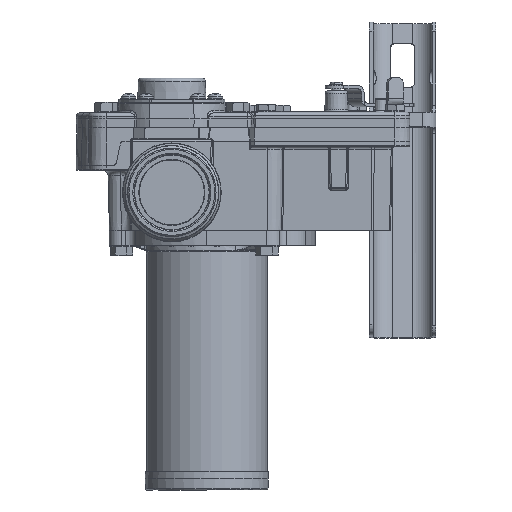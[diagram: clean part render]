
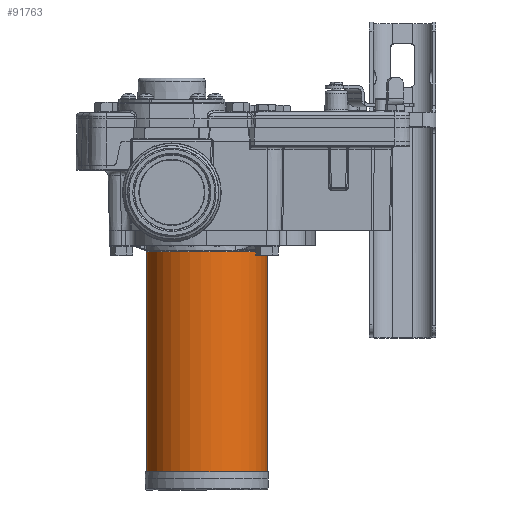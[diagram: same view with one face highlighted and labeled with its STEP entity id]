
A CAD part, front view. The second image highlights one B-rep face of the part: STEP entity #91763.
In plain terms, the highlighted cylindrical face has radius 38.976 mm (diameter 77.953 mm), a full revolution.
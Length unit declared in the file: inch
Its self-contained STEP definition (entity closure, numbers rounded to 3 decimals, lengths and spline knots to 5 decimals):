
#1421=ELLIPSE('',#97242,4.48658,1.5345);
#1422=ELLIPSE('',#97244,4.48658,1.5345);
#1597=FACE_BOUND('',#15083,.T.);
#4681=CYLINDRICAL_SURFACE('',#97246,1.5345);
#6016=CIRCLE('',#97205,1.5345);
#6029=CIRCLE('',#97235,1.5345);
#6030=CIRCLE('',#97238,1.5345);
#6031=CIRCLE('',#97240,1.5345);
#6032=CIRCLE('',#97247,1.5345);
#9829=FACE_OUTER_BOUND('',#15082,.T.);
#15082=EDGE_LOOP('',(#61775,#61776,#61777,#61778));
#15083=EDGE_LOOP('',(#61779,#61780,#61781,#61782,#61783,#61784,#61785));
#23035=LINE('',#139995,#30184);
#23041=LINE('',#140009,#30190);
#23051=LINE('',#140038,#30200);
#30184=VECTOR('',#106680,0.3937);
#30190=VECTOR('',#106692,0.3937);
#30200=VECTOR('',#106724,1.5345);
#37692=VERTEX_POINT('',#139931);
#37707=VERTEX_POINT('',#139993);
#37708=VERTEX_POINT('',#139994);
#37711=VERTEX_POINT('',#140002);
#37713=VERTEX_POINT('',#140008);
#37715=VERTEX_POINT('',#140014);
#37717=VERTEX_POINT('',#140020);
#37719=VERTEX_POINT('',#140026);
#37721=VERTEX_POINT('',#140036);
#46786=EDGE_CURVE('',#37692,#37692,#6016,.T.);
#46813=EDGE_CURVE('',#37707,#37708,#23035,.T.);
#46817=EDGE_CURVE('',#37708,#37711,#6029,.T.);
#46820=EDGE_CURVE('',#37711,#37713,#23041,.T.);
#46823=EDGE_CURVE('',#37713,#37715,#6030,.T.);
#46826=EDGE_CURVE('',#37717,#37707,#6031,.T.);
#46829=EDGE_CURVE('',#37719,#37717,#1421,.T.);
#46832=EDGE_CURVE('',#37715,#37719,#1422,.T.);
#46834=EDGE_CURVE('',#37721,#37721,#6032,.T.);
#46835=EDGE_CURVE('',#37721,#37692,#23051,.T.);
#61775=ORIENTED_EDGE('',*,*,#46834,.F.);
#61776=ORIENTED_EDGE('',*,*,#46835,.T.);
#61777=ORIENTED_EDGE('',*,*,#46786,.F.);
#61778=ORIENTED_EDGE('',*,*,#46835,.F.);
#61779=ORIENTED_EDGE('',*,*,#46823,.T.);
#61780=ORIENTED_EDGE('',*,*,#46832,.T.);
#61781=ORIENTED_EDGE('',*,*,#46829,.T.);
#61782=ORIENTED_EDGE('',*,*,#46826,.T.);
#61783=ORIENTED_EDGE('',*,*,#46813,.T.);
#61784=ORIENTED_EDGE('',*,*,#46817,.T.);
#61785=ORIENTED_EDGE('',*,*,#46820,.T.);
#91763=ADVANCED_FACE('',(#9829,#1597),#4681,.T.);
#97205=AXIS2_PLACEMENT_3D('',#139932,#106610,#106611);
#97235=AXIS2_PLACEMENT_3D('',#140003,#106686,#106687);
#97238=AXIS2_PLACEMENT_3D('',#140015,#106697,#106698);
#97240=AXIS2_PLACEMENT_3D('',#140021,#106703,#106704);
#97242=AXIS2_PLACEMENT_3D('',#140027,#106709,#106710);
#97244=AXIS2_PLACEMENT_3D('',#140032,#106715,#106716);
#97246=AXIS2_PLACEMENT_3D('',#140035,#106720,#106721);
#97247=AXIS2_PLACEMENT_3D('',#140037,#106722,#106723);
#106610=DIRECTION('center_axis',(0.,0.,
-1.));
#106611=DIRECTION('ref_axis',(-0.913,-0.408,0.));
#106680=DIRECTION('',(0.,0.,-1.));
#106686=DIRECTION('center_axis',(0.,0.,
-1.));
#106687=DIRECTION('ref_axis',(-0.913,-0.408,0.));
#106692=DIRECTION('',(0.,0.,1.));
#106697=DIRECTION('center_axis',(0.,0.,
-1.));
#106698=DIRECTION('ref_axis',(-0.913,-0.408,0.));
#106703=DIRECTION('center_axis',(0.,0.,
-1.));
#106704=DIRECTION('ref_axis',(-0.913,-0.408,0.));
#106709=DIRECTION('center_axis',(-0.858,-0.383,
0.342));
#106710=DIRECTION('ref_axis',(-0.312,-0.14,-0.94));
#106715=DIRECTION('center_axis',(0.858,0.383,0.342));
#106716=DIRECTION('ref_axis',(-0.312,-0.14,0.94));
#106720=DIRECTION('center_axis',(0.,0.,
1.));
#106721=DIRECTION('ref_axis',(-0.913,-0.408,0.));
#106722=DIRECTION('center_axis',(0.,0.,
1.));
#106723=DIRECTION('ref_axis',(-0.913,-0.408,0.));
#106724=DIRECTION('',(0.,0.,-1.));
#139931=CARTESIAN_POINT('',(1.40094,0.62616,-8.723));
#139932=CARTESIAN_POINT('Origin',(0.,0.,
-8.723));
#139993=CARTESIAN_POINT('',(-0.63982,1.39475,-3.412));
#139994=CARTESIAN_POINT('',(-0.63982,1.39475,-8.653));
#139995=CARTESIAN_POINT('',(-0.63982,1.39475,-8.753));
#140002=CARTESIAN_POINT('',(-0.61243,1.40699,-8.653));
#140003=CARTESIAN_POINT('Origin',(0.,0.,
-8.653));
#140008=CARTESIAN_POINT('',(-0.61243,1.40699,-3.412));
#140009=CARTESIAN_POINT('',(-0.61243,1.40699,-8.753));
#140014=CARTESIAN_POINT('',(-0.56679,1.42599,-3.412));
#140015=CARTESIAN_POINT('Origin',(0.,0.,
-3.412));
#140020=CARTESIAN_POINT('',(-0.68442,1.37341,-3.412));
#140021=CARTESIAN_POINT('Origin',(0.,0.,
-3.412));
#140026=CARTESIAN_POINT('',(-0.62616,1.40094,-3.235));
#140027=CARTESIAN_POINT('Origin',(0.,0.,
-3.235));
#140032=CARTESIAN_POINT('Origin',(0.,0.,
-3.235));
#140035=CARTESIAN_POINT('Origin',(0.,0.,
-8.753));
#140036=CARTESIAN_POINT('',(1.40094,0.62616,-3.165));
#140037=CARTESIAN_POINT('Origin',(0.,0.,
-3.165));
#140038=CARTESIAN_POINT('',(1.40094,0.62616,-8.753));
